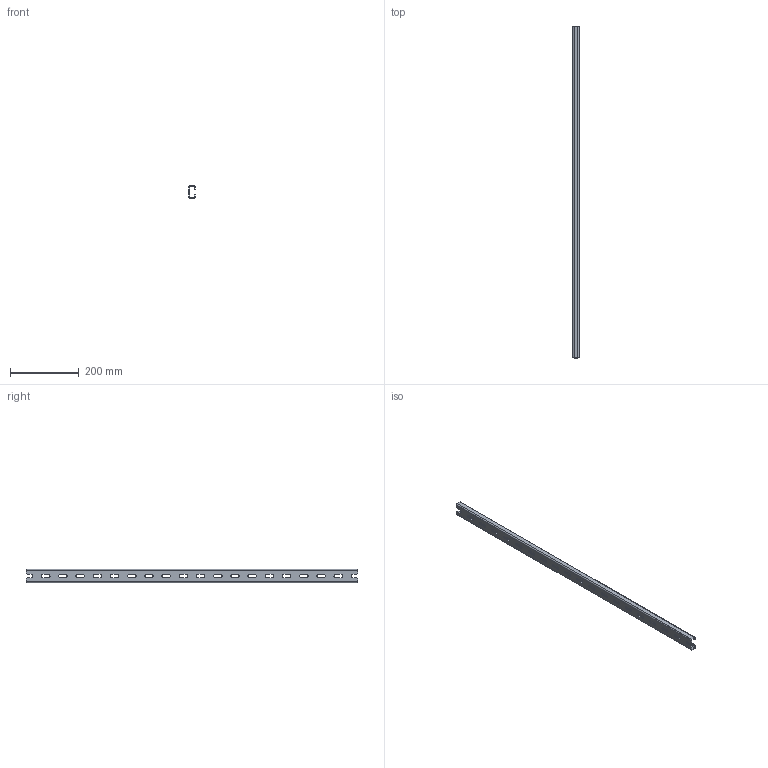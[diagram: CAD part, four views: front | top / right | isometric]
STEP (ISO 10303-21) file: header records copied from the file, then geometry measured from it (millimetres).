
FILE_DESCRIPTION (( 'STEP AP203' ), '1' );
FILE_NAME ('MG 100.04 C Òðàâåðñà ìîíòàæíàÿ.STEP', '2013-01-09T05:33:07', ( 'System' ), ( '' ), 'SwSTEP 2.0', 'SolidWorks 2012', '' );
FILE_SCHEMA (( 'CONFIG_CONTROL_DESIGN' ));
Length unit declared in the file: millimetre
Products named in the file (1): MG 100.04 C Òðàâåðñà ìîíòàæíàÿ
Bounding box: 18.5 x 964.5 x 38 mm (x, y, z)
Volume: 153194.2 mm3; surface area: 159662 mm2
Topology: 1 solids, 1 shells, 126 faces, 340 edges, 216 vertices
Faces by surface type: plane 80, cylinder 46
Entity records: 4069 total; most frequent: DIRECTION 686, CARTESIAN_POINT 683, ORIENTED_EDGE 680, EDGE_CURVE 340, VECTOR 248, LINE 248, AXIS2_PLACEMENT_3D 219, VERTEX_POINT 216
